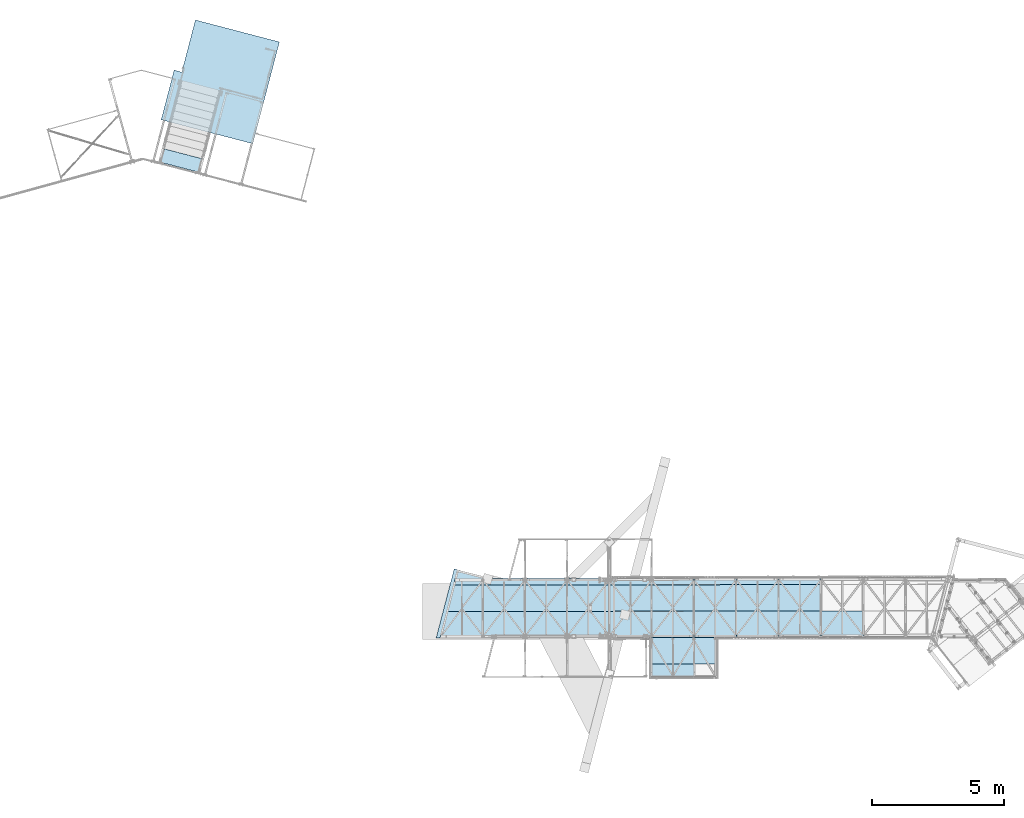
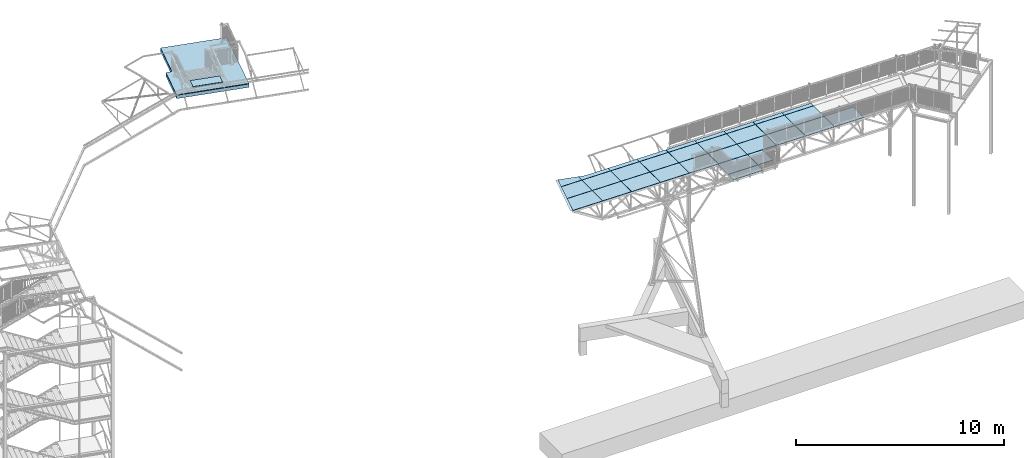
# One storey, part 26 of 169: 33 plates, 2 slabs, 35 elements without a shape of their own.
"""IFC2X3 building model written with IfcOpenShell, lengths in millimetres."""

from ifc_helpers import new_model, si_unit, frame, origin_with_axes, place, context, subcontext, project, spatial, polyline, outline, extrude, material, type_object, element, aggregate, save


model = new_model("IFC2X3")

# Units and contexts
model_context = context("Model", 3, precision=1e-05, world=origin_with_axes())
body_context = subcontext(model_context, "Body", "Model", "MODEL_VIEW")
ifc_project = project(units=[si_unit("LENGTHUNIT", "METRE", prefix="MILLI"), si_unit("AREAUNIT", "SQUARE_METRE"), si_unit("VOLUMEUNIT", "CUBIC_METRE"), si_unit("MASSUNIT", "GRAM", prefix="KILO"), si_unit("TIMEUNIT", "SECOND"), si_unit("PLANEANGLEUNIT", "RADIAN"), si_unit("SOLIDANGLEUNIT", "STERADIAN"), si_unit("THERMODYNAMICTEMPERATUREUNIT", "DEGREE_CELSIUS"), si_unit("LUMINOUSINTENSITYUNIT", "LUMEN")], contexts=[model_context])

# Site, building, storey
site_placement = place(None, origin_with_axes())
site = spatial("IfcSite", under=ifc_project, at=site_placement, Name="Undefined", CompositionType="ELEMENT")
building_placement = place(site_placement, origin_with_axes())
building = spatial("IfcBuilding", under=site, at=building_placement, Name="Undefined", CompositionType="ELEMENT")
storey_placement = place(building_placement, origin_with_axes())
storey = spatial("IfcBuildingStorey", under=building, at=storey_placement, Name="Undefined", CompositionType="ELEMENT", Elevation=0.0)

# Assembly, plate
assembly_1_placement = place(storey_placement, origin_with_axes())
assembly_1 = element("IfcElementAssembly", 1, at=assembly_1_placement, inside=storey, Name="Steel Assembly", AssemblyPlace="NOTDEFINED", PredefinedType="RIGID_FRAME")
ifc_material_1 = material(Name="STEEL/S275JR")
plate_type_1 = type_object("IfcPlateType", Name="BL25*490", PredefinedType="NOTDEFINED")
plate_1_placement = place(assembly_1_placement, frame((7706.02944196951, -1440.61795993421, 13928.8395374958), z_axis=(0.012713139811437, 2.3750999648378e-05, 0.999919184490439), x_axis=(0.9999174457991, 0.00186469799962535, -0.0127131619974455)))
plate_1 = element("IfcPlate", 2, at=plate_1_placement, type_object=plate_type_1, material=ifc_material_1, Name="KRATA", ObjectType="BL25*490", context=body_context, shape_type="SweptSolid", body=[
    extrude(outline(polyline([(0.0, 0.0), (1637.99999999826, 4.73164618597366e-10), (1637.99999999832, 490.0000000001), (-1.66255631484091e-09, 489.999999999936), (0.0, 0.0)])), frame((-2.16840434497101e-17, 4.54747358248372e-13, -12.4999999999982), z_axis=(0.0, 0.0, 1.0), x_axis=(1.0, 0.0, 0.0)), (0.0, 0.0, 1.0), 25.0),
])
aggregate(assembly_1, [plate_1])

assembly_2_placement = place(storey_placement, origin_with_axes())
assembly_2 = element("IfcElementAssembly", 3, at=assembly_2_placement, inside=storey, Name="Steel Assembly", AssemblyPlace="NOTDEFINED", PredefinedType="RIGID_FRAME")
plate_type_2 = type_object("IfcPlateType", Name="BL25*832", PredefinedType="NOTDEFINED")
plate_2_placement = place(assembly_2_placement, frame((9348.47066432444, -942.554189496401, 13907.9454345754), z_axis=(0.012713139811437, 2.3750999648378e-05, 0.999919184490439), x_axis=(0.9999174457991, 0.00186469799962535, -0.0127131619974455)))
plate_2 = element("IfcPlate", 4, at=plate_2_placement, type_object=plate_type_2, material=ifc_material_1, Name="KRATA", ObjectType="BL25*832", context=body_context, shape_type="SweptSolid", body=[
    extrude(outline(polyline([(0.0, 0.0), (831.999999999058, 5.40467226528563e-10), (831.999999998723, 999.999999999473), (4.62969182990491e-08, 1000.00000000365), (0.0, 0.0)])), frame((-2.16840434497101e-17, 4.54747358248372e-13, -12.4999999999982), z_axis=(0.0, 0.0, 1.0), x_axis=(1.0, 0.0, 0.0)), (0.0, 0.0, 1.0), 25.0),
])
aggregate(assembly_2, [plate_2])

assembly_3_placement = place(storey_placement, origin_with_axes())
assembly_3 = element("IfcElementAssembly", 5, at=assembly_3_placement, inside=storey, Name="Steel Assembly", AssemblyPlace="NOTDEFINED", PredefinedType="RIGID_FRAME")
plate_type_3 = type_object("IfcPlateType", Name="BL25*1000", PredefinedType="NOTDEFINED")
plate_3_placement = place(assembly_3_placement, frame((7705.10634155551, -945.618820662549, 13928.83951633), z_axis=(0.012713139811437, 2.3750999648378e-05, 0.999919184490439), x_axis=(0.9999174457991, 0.00186469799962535, -0.0127131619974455)))
plate_3 = element("IfcPlate", 6, at=plate_3_placement, type_object=plate_type_3, material=ifc_material_1, Name="KRATA", ObjectType="BL25*1000", context=body_context, shape_type="SweptSolid", body=[
    extrude(outline(polyline([(0.0, 0.0), (1637.99999999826, 4.73164618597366e-10), (1637.99999999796, 999.9999999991), (4.62969182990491e-08, 1000.00000000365), (0.0, 0.0)])), frame((-2.16840434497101e-17, 4.54747358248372e-13, -12.4999999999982), z_axis=(0.0, 0.0, 1.0), x_axis=(1.0, 0.0, 0.0)), (0.0, 0.0, 1.0), 25.0),
])
aggregate(assembly_3, [plate_3])

assembly_4_placement = place(storey_placement, origin_with_axes())
assembly_4 = element("IfcElementAssembly", 7, at=assembly_4_placement, inside=storey, Name="Steel Assembly", AssemblyPlace="NOTDEFINED", PredefinedType="RIGID_FRAME")
plate_4_placement = place(assembly_4_placement, frame((-338.357094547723, 44.3850878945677, 14031.0819397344), z_axis=(0.012713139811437, 2.3750999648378e-05, 0.999919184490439), x_axis=(0.9999174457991, 0.00186469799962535, -0.0127131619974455)))
plate_4 = element("IfcPlate", 8, at=plate_4_placement, type_object=plate_type_3, material=ifc_material_1, Name="KRATA", ObjectType="BL25*1000", context=body_context, shape_type="SweptSolid", body=[
    extrude(outline(polyline([(0.0, 0.0), (1655.97485351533, -2.68899214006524e-09), (1655.97485351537, 999.999999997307), (257.477142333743, 999.999999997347), (0.0, 0.0)])), frame((-2.16840434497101e-17, 4.54747358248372e-13, -12.4999999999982), z_axis=(0.0, 0.0, 1.0), x_axis=(1.0, 0.0, 0.0)), (0.0, 0.0, 1.0), 25.0),
])
aggregate(assembly_4, [plate_4])

assembly_5_placement = place(storey_placement, origin_with_axes())
assembly_5 = element("IfcElementAssembly", 9, at=assembly_5_placement, inside=storey, Name="Steel Assembly", AssemblyPlace="NOTDEFINED", PredefinedType="RIGID_FRAME")
plate_5_placement = place(assembly_5_placement, frame((-81.446446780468, 1049.86593583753, 14027.7916513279), z_axis=(0.012713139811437, 2.3750999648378e-05, 0.999919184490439), x_axis=(0.9999174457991, 0.00186469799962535, -0.0127131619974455)))
plate_5 = element("IfcPlate", 10, at=plate_5_placement, type_object=plate_type_3, material=ifc_material_1, Name="KRATA", ObjectType="BL25*1000", context=body_context, shape_type="SweptSolid", body=[
    extrude(outline(polyline([(0.0, 0.0), (1397.16857910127, -2.28510543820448e-09), (1397.16857910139, 999.999999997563), (257.434967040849, 999.999999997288), (0.0, 0.0)])), frame((-2.16840434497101e-17, 4.54747358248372e-13, -12.4999999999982), z_axis=(0.0, 0.0, 1.0), x_axis=(1.0, 0.0, 0.0)), (0.0, 0.0, 1.0), 25.0),
])
aggregate(assembly_5, [plate_5])

assembly_6_placement = place(storey_placement, origin_with_axes())
assembly_6 = element("IfcElementAssembly", 11, at=assembly_6_placement, inside=storey, Name="Steel Assembly", AssemblyPlace="NOTDEFINED", PredefinedType="RIGID_FRAME")
plate_6_placement = place(assembly_6_placement, frame((1321.99600791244, 47.4814012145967, 14009.9718590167), z_axis=(0.012713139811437, 2.3750999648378e-05, 0.999919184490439), x_axis=(0.9999174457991, 0.00186469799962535, -0.0127131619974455)))
plate_6 = element("IfcPlate", 12, at=plate_6_placement, type_object=plate_type_3, material=ifc_material_1, Name="KRATA", ObjectType="BL25*1000", context=body_context, shape_type="SweptSolid", body=[
    extrude(outline(polyline([(0.0, 0.0), (1597.00000000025, -3.1636488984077e-09), (1597.0000000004, 999.999999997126), (4.62969182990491e-08, 1000.00000000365), (0.0, 0.0)])), frame((-2.16840434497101e-17, 4.54747358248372e-13, -12.4999999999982), z_axis=(0.0, 0.0, 1.0), x_axis=(1.0, 0.0, 0.0)), (0.0, 0.0, 1.0), 25.0),
])
aggregate(assembly_6, [plate_6])

assembly_7_placement = place(storey_placement, origin_with_axes())
assembly_7 = element("IfcElementAssembly", 13, at=assembly_7_placement, inside=storey, Name="Steel Assembly", AssemblyPlace="NOTDEFINED", PredefinedType="RIGID_FRAME")
plate_7_placement = place(assembly_7_placement, frame((1320.12183404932, 1052.47965368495, 14009.9718155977), z_axis=(0.012713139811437, 2.3750999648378e-05, 0.999919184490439), x_axis=(0.9999174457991, 0.00186469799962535, -0.0127131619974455)))
plate_7 = element("IfcPlate", 14, at=plate_7_placement, type_object=plate_type_3, material=ifc_material_1, Name="KRATA", ObjectType="BL25*1000", context=body_context, shape_type="SweptSolid", body=[
    extrude(outline(polyline([(0.0, 0.0), (1597.00000000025, -3.1636488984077e-09), (1597.0000000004, 999.999999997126), (4.62969182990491e-08, 1000.00000000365), (0.0, 0.0)])), frame((-2.16840434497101e-17, 4.54747358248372e-13, -12.4999999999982), z_axis=(0.0, 0.0, 1.0), x_axis=(1.0, 0.0, 0.0)), (0.0, 0.0, 1.0), 25.0),
])
aggregate(assembly_7, [plate_7])

assembly_8_placement = place(storey_placement, origin_with_axes())
assembly_8 = element("IfcElementAssembly", 15, at=assembly_8_placement, inside=storey, Name="Steel Assembly", AssemblyPlace="NOTDEFINED", PredefinedType="RIGID_FRAME")
plate_8_placement = place(assembly_8_placement, frame((4524.76227237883, 53.4540872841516, 13969.2512109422), z_axis=(0.012713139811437, 2.3750999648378e-05, 0.999919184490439), x_axis=(0.9999174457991, 0.00186469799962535, -0.0127131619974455)))
plate_8 = element("IfcPlate", 16, at=plate_8_placement, type_object=plate_type_3, material=ifc_material_1, Name="KRATA", ObjectType="BL25*1000", context=body_context, shape_type="SweptSolid", body=[
    extrude(outline(polyline([(0.0, 0.0), (1597.00000000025, -3.1636488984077e-09), (1597.0000000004, 999.999999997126), (4.62969182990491e-08, 1000.00000000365), (0.0, 0.0)])), frame((-2.16840434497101e-17, 4.54747358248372e-13, -12.4999999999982), z_axis=(0.0, 0.0, 1.0), x_axis=(1.0, 0.0, 0.0)), (0.0, 0.0, 1.0), 25.0),
])
aggregate(assembly_8, [plate_8])

assembly_9_placement = place(storey_placement, origin_with_axes())
assembly_9 = element("IfcElementAssembly", 17, at=assembly_9_placement, inside=storey, Name="Steel Assembly", AssemblyPlace="NOTDEFINED", PredefinedType="RIGID_FRAME")
plate_9_placement = place(assembly_9_placement, frame((4522.88809851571, 1058.45233975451, 13969.2511675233), z_axis=(0.012713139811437, 2.3750999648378e-05, 0.999919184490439), x_axis=(0.9999174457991, 0.00186469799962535, -0.0127131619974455)))
plate_9 = element("IfcPlate", 18, at=plate_9_placement, type_object=plate_type_3, material=ifc_material_1, Name="KRATA", ObjectType="BL25*1000", context=body_context, shape_type="SweptSolid", body=[
    extrude(outline(polyline([(0.0, 0.0), (1597.00000000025, -3.1636488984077e-09), (1597.0000000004, 999.999999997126), (4.62969182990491e-08, 1000.00000000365), (0.0, 0.0)])), frame((-2.16840434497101e-17, 4.54747358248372e-13, -12.4999999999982), z_axis=(0.0, 0.0, 1.0), x_axis=(1.0, 0.0, 0.0)), (0.0, 0.0, 1.0), 25.0),
])
aggregate(assembly_9, [plate_9])

assembly_10_placement = place(storey_placement, origin_with_axes())
assembly_10 = element("IfcElementAssembly", 19, at=assembly_10_placement, inside=storey, Name="Steel Assembly", AssemblyPlace="NOTDEFINED", PredefinedType="RIGID_FRAME")
plate_10_placement = place(assembly_10_placement, frame((2923.379140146, 50.4677442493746, 13989.6115349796), z_axis=(0.012713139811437, 2.3750999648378e-05, 0.999919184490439), x_axis=(0.9999174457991, 0.00186469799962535, -0.0127131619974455)))
plate_10 = element("IfcPlate", 20, at=plate_10_placement, type_object=plate_type_3, material=ifc_material_1, Name="KRATA", ObjectType="BL25*1000", context=body_context, shape_type="SweptSolid", body=[
    extrude(outline(polyline([(0.0, 0.0), (1597.00000000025, -3.1636488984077e-09), (1597.0000000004, 999.999999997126), (4.62969182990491e-08, 1000.00000000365), (0.0, 0.0)])), frame((-2.16840434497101e-17, 4.54747358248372e-13, -12.4999999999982), z_axis=(0.0, 0.0, 1.0), x_axis=(1.0, 0.0, 0.0)), (0.0, 0.0, 1.0), 25.0),
])
aggregate(assembly_10, [plate_10])

assembly_11_placement = place(storey_placement, origin_with_axes())
assembly_11 = element("IfcElementAssembly", 21, at=assembly_11_placement, inside=storey, Name="Steel Assembly", AssemblyPlace="NOTDEFINED", PredefinedType="RIGID_FRAME")
plate_11_placement = place(assembly_11_placement, frame((2921.50496628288, 1055.46599671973, 13989.6114915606), z_axis=(0.012713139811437, 2.3750999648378e-05, 0.999919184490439), x_axis=(0.9999174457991, 0.00186469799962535, -0.0127131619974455)))
plate_11 = element("IfcPlate", 22, at=plate_11_placement, type_object=plate_type_3, material=ifc_material_1, Name="KRATA", ObjectType="BL25*1000", context=body_context, shape_type="SweptSolid", body=[
    extrude(outline(polyline([(0.0, 0.0), (1597.00000000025, -3.1636488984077e-09), (1597.0000000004, 999.999999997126), (4.62969182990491e-08, 1000.00000000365), (0.0, 0.0)])), frame((-2.16840434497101e-17, 4.54747358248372e-13, -12.4999999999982), z_axis=(0.0, 0.0, 1.0), x_axis=(1.0, 0.0, 0.0)), (0.0, 0.0, 1.0), 25.0),
])
aggregate(assembly_11, [plate_11])

assembly_12_placement = place(storey_placement, origin_with_axes())
assembly_12 = element("IfcElementAssembly", 23, at=assembly_12_placement, inside=storey, Name="Steel Assembly", AssemblyPlace="NOTDEFINED", PredefinedType="RIGID_FRAME")
plate_12_placement = place(assembly_12_placement, frame((6124.4881415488, 1061.43705491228, 13948.8880866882), z_axis=(0.012713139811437, 2.3750999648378e-05, 0.999919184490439), x_axis=(0.9999174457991, 0.00186469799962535, -0.0127131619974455)))
plate_12 = element("IfcPlate", 24, at=plate_12_placement, type_object=plate_type_3, material=ifc_material_1, Name="KRATA", ObjectType="BL25*1000", context=body_context, shape_type="SweptSolid", body=[
    extrude(outline(polyline([(0.0, 0.0), (1604.99999999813, -1.71257852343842e-09), (1604.99999999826, 999.99999999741), (4.62969182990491e-08, 1000.00000000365), (0.0, 0.0)])), frame((-2.16840434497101e-17, 4.54747358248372e-13, -12.4999999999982), z_axis=(0.0, 0.0, 1.0), x_axis=(1.0, 0.0, 0.0)), (0.0, 0.0, 1.0), 25.0),
])
aggregate(assembly_12, [plate_12])

assembly_13_placement = place(storey_placement, origin_with_axes())
assembly_13 = element("IfcElementAssembly", 25, at=assembly_13_placement, inside=storey, Name="Steel Assembly", AssemblyPlace="NOTDEFINED", PredefinedType="RIGID_FRAME")
plate_13_placement = place(assembly_13_placement, frame((6126.36231541, 56.438802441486, 13948.8881301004), z_axis=(0.012713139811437, 2.3750999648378e-05, 0.999919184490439), x_axis=(0.9999174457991, 0.00186469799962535, -0.0127131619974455)))
plate_13 = element("IfcPlate", 26, at=plate_13_placement, type_object=plate_type_3, material=ifc_material_1, Name="KRATA", ObjectType="BL25*1000", context=body_context, shape_type="SweptSolid", body=[
    extrude(outline(polyline([(0.0, 0.0), (1604.99999999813, -1.71257852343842e-09), (1604.99999999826, 999.99999999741), (4.62969182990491e-08, 1000.00000000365), (0.0, 0.0)])), frame((-2.16840434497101e-17, 4.54747358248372e-13, -12.4999999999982), z_axis=(0.0, 0.0, 1.0), x_axis=(1.0, 0.0, 0.0)), (0.0, 0.0, 1.0), 25.0),
])
aggregate(assembly_13, [plate_13])

assembly_14_placement = place(storey_placement, origin_with_axes())
assembly_14 = element("IfcElementAssembly", 27, at=assembly_14_placement, inside=storey, Name="Steel Assembly", AssemblyPlace="NOTDEFINED", PredefinedType="RIGID_FRAME")
plate_14_placement = place(assembly_14_placement, frame((7734.35526993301, 1064.43921935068, 13928.4198956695), z_axis=(0.012713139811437, 2.3750999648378e-05, 0.999919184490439), x_axis=(0.9999174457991, 0.00186469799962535, -0.0127131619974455)))
plate_14 = element("IfcPlate", 28, at=plate_14_placement, type_object=plate_type_3, material=ifc_material_1, Name="KRATA", ObjectType="BL25*1000", context=body_context, shape_type="SweptSolid", body=[
    extrude(outline(polyline([(0.0, 0.0), (1604.99999999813, -1.71257852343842e-09), (1604.99999999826, 999.99999999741), (4.62969182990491e-08, 1000.00000000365), (0.0, 0.0)])), frame((-2.16840434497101e-17, 4.54747358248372e-13, -12.4999999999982), z_axis=(0.0, 0.0, 1.0), x_axis=(1.0, 0.0, 0.0)), (0.0, 0.0, 1.0), 25.0),
])
aggregate(assembly_14, [plate_14])

assembly_15_placement = place(storey_placement, origin_with_axes())
assembly_15 = element("IfcElementAssembly", 29, at=assembly_15_placement, inside=storey, Name="Steel Assembly", AssemblyPlace="NOTDEFINED", PredefinedType="RIGID_FRAME")
plate_15_placement = place(assembly_15_placement, frame((7736.22944379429, 59.4409668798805, 13928.4199390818), z_axis=(0.012713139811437, 2.3750999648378e-05, 0.999919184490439), x_axis=(0.9999174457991, 0.00186469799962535, -0.0127131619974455)))
plate_15 = element("IfcPlate", 30, at=plate_15_placement, type_object=plate_type_3, material=ifc_material_1, Name="KRATA", ObjectType="BL25*1000", context=body_context, shape_type="SweptSolid", body=[
    extrude(outline(polyline([(0.0, 0.0), (1604.99999999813, -1.71257852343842e-09), (1604.99999999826, 999.99999999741), (4.62969182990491e-08, 1000.00000000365), (0.0, 0.0)])), frame((-2.16840434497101e-17, 4.54747358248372e-13, -12.4999999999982), z_axis=(0.0, 0.0, 1.0), x_axis=(1.0, 0.0, 0.0)), (0.0, 0.0, 1.0), 25.0),
])
aggregate(assembly_15, [plate_15])

assembly_16_placement = place(storey_placement, origin_with_axes())
assembly_16 = element("IfcElementAssembly", 31, at=assembly_16_placement, inside=storey, Name="Steel Assembly", AssemblyPlace="NOTDEFINED", PredefinedType="RIGID_FRAME")
plate_16_placement = place(assembly_16_placement, frame((9344.22239831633, 1067.44138378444, 13907.9517046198), z_axis=(0.012713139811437, 2.3750999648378e-05, 0.999919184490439), x_axis=(0.9999174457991, 0.00186469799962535, -0.0127131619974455)))
plate_16 = element("IfcPlate", 32, at=plate_16_placement, type_object=plate_type_3, material=ifc_material_1, Name="KRATA", ObjectType="BL25*1000", context=body_context, shape_type="SweptSolid", body=[
    extrude(outline(polyline([(0.0, 0.0), (1604.99999999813, -1.71257852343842e-09), (1604.99999999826, 999.99999999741), (4.62969182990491e-08, 1000.00000000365), (0.0, 0.0)])), frame((-2.16840434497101e-17, 4.54747358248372e-13, -12.4999999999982), z_axis=(0.0, 0.0, 1.0), x_axis=(1.0, 0.0, 0.0)), (0.0, 0.0, 1.0), 25.0),
])
aggregate(assembly_16, [plate_16])

assembly_17_placement = place(storey_placement, origin_with_axes())
assembly_17 = element("IfcElementAssembly", 33, at=assembly_17_placement, inside=storey, Name="Steel Assembly", AssemblyPlace="NOTDEFINED", PredefinedType="RIGID_FRAME")
plate_17_placement = place(assembly_17_placement, frame((9346.0965721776, 62.443131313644, 13907.951748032), z_axis=(0.012713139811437, 2.3750999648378e-05, 0.999919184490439), x_axis=(0.9999174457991, 0.00186469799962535, -0.0127131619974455)))
plate_17 = element("IfcPlate", 34, at=plate_17_placement, type_object=plate_type_3, material=ifc_material_1, Name="KRATA", ObjectType="BL25*1000", context=body_context, shape_type="SweptSolid", body=[
    extrude(outline(polyline([(0.0, 0.0), (1604.99999999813, -1.71257852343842e-09), (1604.99999999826, 999.99999999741), (4.62969182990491e-08, 1000.00000000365), (0.0, 0.0)])), frame((-2.16840434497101e-17, 4.54747358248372e-13, -12.4999999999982), z_axis=(0.0, 0.0, 1.0), x_axis=(1.0, 0.0, 0.0)), (0.0, 0.0, 1.0), 25.0),
])
aggregate(assembly_17, [plate_17])

assembly_18_placement = place(storey_placement, origin_with_axes())
assembly_18 = element("IfcElementAssembly", 35, at=assembly_18_placement, inside=storey, Name="Steel Assembly", AssemblyPlace="NOTDEFINED", PredefinedType="RIGID_FRAME")
plate_18_placement = place(assembly_18_placement, frame((10954.089526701, 1070.4435482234, 13887.4835136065), z_axis=(0.012713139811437, 2.3750999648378e-05, 0.999919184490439), x_axis=(0.9999174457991, 0.00186469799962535, -0.0127131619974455)))
plate_18 = element("IfcPlate", 36, at=plate_18_placement, type_object=plate_type_3, material=ifc_material_1, Name="KRATA", ObjectType="BL25*1000", context=body_context, shape_type="SweptSolid", body=[
    extrude(outline(polyline([(0.0, 0.0), (1604.99999999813, -1.71257852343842e-09), (1604.99999999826, 999.99999999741), (4.62969182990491e-08, 1000.00000000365), (0.0, 0.0)])), frame((-2.16840434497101e-17, 4.54747358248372e-13, -12.4999999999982), z_axis=(0.0, 0.0, 1.0), x_axis=(1.0, 0.0, 0.0)), (0.0, 0.0, 1.0), 25.0),
])
aggregate(assembly_18, [plate_18])

assembly_19_placement = place(storey_placement, origin_with_axes())
assembly_19 = element("IfcElementAssembly", 37, at=assembly_19_placement, inside=storey, Name="Steel Assembly", AssemblyPlace="NOTDEFINED", PredefinedType="RIGID_FRAME")
plate_19_placement = place(assembly_19_placement, frame((10955.9637005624, 65.4452957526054, 13887.4835570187), z_axis=(0.012713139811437, 2.3750999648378e-05, 0.999919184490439), x_axis=(0.9999174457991, 0.00186469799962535, -0.0127131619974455)))
plate_19 = element("IfcPlate", 38, at=plate_19_placement, type_object=plate_type_3, material=ifc_material_1, Name="KRATA", ObjectType="BL25*1000", context=body_context, shape_type="SweptSolid", body=[
    extrude(outline(polyline([(0.0, 0.0), (1604.99999999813, -1.71257852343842e-09), (1604.99999999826, 999.99999999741), (4.62969182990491e-08, 1000.00000000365), (0.0, 0.0)])), frame((-2.16840434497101e-17, 4.54747358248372e-13, -12.4999999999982), z_axis=(0.0, 0.0, 1.0), x_axis=(1.0, 0.0, 0.0)), (0.0, 0.0, 1.0), 25.0),
])
aggregate(assembly_19, [plate_19])

assembly_20_placement = place(storey_placement, origin_with_axes())
assembly_20 = element("IfcElementAssembly", 39, at=assembly_20_placement, inside=storey, Name="Steel Assembly", AssemblyPlace="NOTDEFINED", PredefinedType="RIGID_FRAME")
plate_20_placement = place(assembly_20_placement, frame((12563.9566550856, 1073.44571266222, 13867.0153225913), z_axis=(0.012713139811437, 2.3750999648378e-05, 0.999919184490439), x_axis=(0.9999174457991, 0.00186469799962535, -0.0127131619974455)))
plate_20 = element("IfcPlate", 40, at=plate_20_placement, type_object=plate_type_3, material=ifc_material_1, Name="KRATA", ObjectType="BL25*1000", context=body_context, shape_type="SweptSolid", body=[
    extrude(outline(polyline([(0.0, 0.0), (1604.99999999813, -1.71257852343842e-09), (1604.99999999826, 999.99999999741), (4.62969182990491e-08, 1000.00000000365), (0.0, 0.0)])), frame((-2.16840434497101e-17, 4.54747358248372e-13, -12.4999999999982), z_axis=(0.0, 0.0, 1.0), x_axis=(1.0, 0.0, 0.0)), (0.0, 0.0, 1.0), 25.0),
])
aggregate(assembly_20, [plate_20])

assembly_21_placement = place(storey_placement, origin_with_axes())
assembly_21 = element("IfcElementAssembly", 41, at=assembly_21_placement, inside=storey, Name="Steel Assembly", AssemblyPlace="NOTDEFINED", PredefinedType="RIGID_FRAME")
plate_21_placement = place(assembly_21_placement, frame((12565.8308289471, 68.447460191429, 13867.0153660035), z_axis=(0.012713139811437, 2.3750999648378e-05, 0.999919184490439), x_axis=(0.9999174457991, 0.00186469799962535, -0.0127131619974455)))
plate_21 = element("IfcPlate", 42, at=plate_21_placement, type_object=plate_type_3, material=ifc_material_1, Name="KRATA", ObjectType="BL25*1000", context=body_context, shape_type="SweptSolid", body=[
    extrude(outline(polyline([(0.0, 0.0), (1604.99999999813, -1.71257852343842e-09), (1604.99999999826, 999.99999999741), (4.62969182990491e-08, 1000.00000000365), (0.0, 0.0)])), frame((-2.16840434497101e-17, 4.54747358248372e-13, -12.4999999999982), z_axis=(0.0, 0.0, 1.0), x_axis=(1.0, 0.0, 0.0)), (0.0, 0.0, 1.0), 25.0),
])
aggregate(assembly_21, [plate_21])

assembly_22_placement = place(storey_placement, origin_with_axes())
assembly_22 = element("IfcElementAssembly", 43, at=assembly_22_placement, inside=storey, Name="Steel Assembly", AssemblyPlace="NOTDEFINED", PredefinedType="RIGID_FRAME")
plate_22_placement = place(assembly_22_placement, frame((14175.6979573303, 71.4496246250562, 13846.5471749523), z_axis=(0.012713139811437, 2.3750999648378e-05, 0.999919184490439), x_axis=(0.9999174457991, 0.00186469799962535, -0.0127131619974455)))
plate_22 = element("IfcPlate", 44, at=plate_22_placement, type_object=plate_type_3, material=ifc_material_1, Name="KRATA", ObjectType="BL25*1000", context=body_context, shape_type="SweptSolid", body=[
    extrude(outline(polyline([(0.0, 0.0), (1604.99999999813, -1.71257852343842e-09), (1604.99999999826, 999.99999999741), (4.62969182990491e-08, 1000.00000000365), (0.0, 0.0)])), frame((-2.16840434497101e-17, 4.54747358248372e-13, -12.4999999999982), z_axis=(0.0, 0.0, 1.0), x_axis=(1.0, 0.0, 0.0)), (0.0, 0.0, 1.0), 25.0),
])
aggregate(assembly_22, [plate_22])

assembly_23_placement = place(storey_placement, origin_with_axes())
assembly_23 = element("IfcElementAssembly", 45, at=assembly_23_placement, inside=storey, Name="Steel Assembly", AssemblyPlace="NOTDEFINED", PredefinedType="RIGID_FRAME")
plate_type_4 = type_object("IfcPlateType", Name="BL3*142", PredefinedType="NOTDEFINED")
plate_23_placement = place(assembly_23_placement, frame((-464.535456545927, 44.1497845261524, 14046.6873296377), z_axis=(0.012713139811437, 2.3750999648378e-05, 0.999919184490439), x_axis=(0.9999174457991, 0.00186469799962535, -0.0127131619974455)))
plate_23 = element("IfcPlate", 46, at=plate_23_placement, type_object=plate_type_4, material=ifc_material_1, Name="MASKOWNICA", ObjectType="BL3*142", context=body_context, shape_type="SweptSolid", body=[
    extrude(outline(polyline([(0.0, 0.0), (146.85600280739, 5.36836353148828e-10), (814.30780029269, 2592.29052734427), (690.519592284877, 2624.85546875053), (0.0, 0.0)])), frame((1.81898940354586e-12, -1.77635442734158e-15, -1.50000000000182), z_axis=(0.0, 0.0, 1.0), x_axis=(1.0, 0.0, 0.0)), (0.0, 0.0, 1.0), 3.0),
])
aggregate(assembly_23, [plate_23])

# Assembly, slab
assembly_24_placement = place(storey_placement, origin_with_axes())
assembly_24 = element("IfcElementAssembly", 47, at=assembly_24_placement, inside=storey, Name="CONCRETE_SLAB", AssemblyPlace="NOTDEFINED", PredefinedType="REINFORCEMENT_UNIT")
ifc_material_2 = material(Name="CONCRETE/C45/55")
slab_type_1 = type_object("IfcSlabType", Name="20*3600", PredefinedType="NOTDEFINED")
slab_1_placement = place(assembly_24_placement, frame((-7435.77236411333, 18837.9479175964, 12555.4183765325), z_axis=(0.0, 0.0, 1.0), x_axis=(0.252628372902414, 0.967563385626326, 0.0)))
slab_1 = element("IfcSlab", 48, at=slab_1_placement, type_object=slab_type_1, material=ifc_material_2, Name="CONCRETE_SLAB", ObjectType="20*3600", PredefinedType="FLOOR", context=body_context, shape_type="SweptSolid", body=[
    extrude(outline(polyline([(0.0, 0.0), (4000.00390628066, -6.42103259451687e-10), (4000.0039062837, 3300.00000000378), (1949.99438478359, 3300.00000000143), (1949.99438478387, 3600.00000000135), (1.49970219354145e-07, 3599.99999999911), (0.0, 0.0)])), frame((-4.54746113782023e-13, 1.81900675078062e-12, -9.99999999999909), z_axis=(0.0, 0.0, 1.0), x_axis=(1.0, 0.0, 0.0)), (0.0, 0.0, 1.0), 20.0),
])
aggregate(assembly_24, [slab_1])

# Assembly, plate
assembly_25_placement = place(storey_placement, origin_with_axes())
assembly_25 = element("IfcElementAssembly", 49, at=assembly_25_placement, inside=storey, Name="Steel Assembly", AssemblyPlace="NOTDEFINED", PredefinedType="RIGID_FRAME")
ifc_material_3 = material(Name="STEEL/S235")
plate_type_5 = type_object("IfcPlateType", Name="BL40*530", PredefinedType="NOTDEFINED")
plate_24_placement = place(assembly_25_placement, frame((-9377.03594678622, 18270.7291114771, 14020.4176077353), z_axis=(0.0, 0.0, 1.0), x_axis=(-0.967563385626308, 0.252628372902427, -1.72000000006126e-07)))
plate_24 = element("IfcPlate", 50, at=plate_24_placement, type_object=plate_type_5, material=ifc_material_3, Name="KRATA", ObjectType="BL40*530", context=body_context, shape_type="SweptSolid", body=[
    extrude(outline(polyline([(0.0, 0.0), (1479.99999999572, -1.77897163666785e-09), (1479.99999999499, 530.00000000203), (-7.15426722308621e-08, 530.000000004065), (0.0, 0.0)])), frame((0.0, 0.0, -20.0), z_axis=(0.0, 0.0, 1.0), x_axis=(1.0, 0.0, 0.0)), (0.0, 0.0, 1.0), 40.0),
])
aggregate(assembly_25, [plate_24])

# Assembly, slab
assembly_26_placement = place(storey_placement, origin_with_axes())
assembly_26 = element("IfcElementAssembly", 51, at=assembly_26_placement, inside=storey, Name="CONCRETE_SLAB", AssemblyPlace="NOTDEFINED", PredefinedType="REINFORCEMENT_UNIT")
ifc_material_4 = material(Name="CONCRETE/C25/30")
slab_type_2 = type_object("IfcSlabType", Name="200*3600", PredefinedType="NOTDEFINED")
slab_2_placement = place(assembly_26_placement, frame((-6425.25788578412, 22708.2052398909, 12445.4183763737), z_axis=(0.0, 0.0, 1.0), x_axis=(-0.967563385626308, 0.252628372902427, -1.72000000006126e-07)))
slab_2 = element("IfcSlab", 52, at=slab_2_placement, type_object=slab_type_2, material=ifc_material_4, Name="CONCRETE_SLAB", ObjectType="200*3600", PredefinedType="FLOOR", context=body_context, shape_type="SweptSolid", body=[
    extrude(outline(polyline([(0.0, 0.0), (3299.999999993, -4.12910594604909e-09), (3299.99999999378, 2050.00952149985), (3599.99999999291, 2050.00952149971), (3599.99999999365, 4000.00390628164), (3.54702933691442e-10, 4000.00390628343), (0.0, 0.0)])), frame((0.0, 0.0, -99.9999999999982), z_axis=(0.0, 0.0, 1.0), x_axis=(1.0, 0.0, 0.0)), (0.0, 0.0, 1.0), 200.0),
])
aggregate(assembly_26, [slab_2])

# Assembly, plate
assembly_27_placement = place(storey_placement, origin_with_axes())
assembly_27 = element("IfcElementAssembly", 53, at=assembly_27_placement, inside=storey, Name="Steel Assembly", AssemblyPlace="NOTDEFINED", PredefinedType="RIGID_FRAME")
plate_type_6 = type_object("IfcPlateType", Name="BL25*587", PredefinedType="NOTDEFINED")
plate_25_placement = place(assembly_27_placement, frame((175.380381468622, 2055.3466274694, 14024.5024286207), z_axis=(0.012713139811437, 2.3750999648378e-05, 0.999919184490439), x_axis=(0.9999174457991, 0.00186469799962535, -0.0127131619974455)))
plate_25 = element("IfcPlate", 54, at=plate_25_placement, type_object=plate_type_6, material=ifc_material_1, Name="KRATA", ObjectType="BL25*587", context=body_context, shape_type="SweptSolid", body=[
    extrude(outline(polyline([(0.0, 0.0), (1138.10461425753, -2.36059349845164e-09), (1138.10461425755, 333.250579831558), (151.225799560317, 587.337951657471), (0.0, 0.0)])), frame((-2.16840434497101e-17, 4.54747358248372e-13, -12.4999999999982), z_axis=(0.0, 0.0, 1.0), x_axis=(1.0, 0.0, 0.0)), (0.0, 0.0, 1.0), 25.0),
])
aggregate(assembly_27, [plate_25])

assembly_28_placement = place(storey_placement, origin_with_axes())
assembly_28 = element("IfcElementAssembly", 55, at=assembly_28_placement, inside=storey, Name="Steel Assembly", AssemblyPlace="NOTDEFINED", PredefinedType="RIGID_FRAME")
plate_type_7 = type_object("IfcPlateType", Name="BL25*332", PredefinedType="NOTDEFINED")
plate_26_placement = place(assembly_28_placement, frame((1318.24766018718, 2057.47790615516, 14009.971772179), z_axis=(0.012713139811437, 2.3750999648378e-05, 0.999919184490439), x_axis=(0.9999174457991, 0.00186469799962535, -0.0127131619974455)))
plate_26 = element("IfcPlate", 56, at=plate_26_placement, type_object=plate_type_7, material=ifc_material_1, Name="KRATA", ObjectType="BL25*332", context=body_context, shape_type="SweptSolid", body=[
    extrude(outline(polyline([(0.0, 0.0), (1597.00000000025, -3.1636488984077e-09), (1597.00000000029, 249.999999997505), (318.019287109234, 249.999999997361), (-7.22138793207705e-10, 331.858734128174), (0.0, 0.0)])), frame((-2.16840434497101e-17, 4.54747358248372e-13, -12.4999999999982), z_axis=(0.0, 0.0, 1.0), x_axis=(1.0, 0.0, 0.0)), (0.0, 0.0, 1.0), 25.0),
])
aggregate(assembly_28, [plate_26])

assembly_29_placement = place(storey_placement, origin_with_axes())
assembly_29 = element("IfcElementAssembly", 57, at=assembly_29_placement, inside=storey, Name="Steel Assembly", AssemblyPlace="NOTDEFINED", PredefinedType="RIGID_FRAME")
plate_type_8 = type_object("IfcPlateType", Name="BL25*250", PredefinedType="NOTDEFINED")
plate_27_placement = place(assembly_29_placement, frame((4521.01392465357, 2063.45059222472, 13969.2511241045), z_axis=(0.012713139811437, 2.3750999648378e-05, 0.999919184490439), x_axis=(0.9999174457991, 0.00186469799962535, -0.0127131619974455)))
plate_27 = element("IfcPlate", 58, at=plate_27_placement, type_object=plate_type_8, material=ifc_material_1, Name="KRATA", ObjectType="BL25*250", context=body_context, shape_type="SweptSolid", body=[
    extrude(outline(polyline([(0.0, 0.0), (1597.00000000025, -3.1636488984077e-09), (1597.00000000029, 249.999999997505), (4.90217644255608e-10, 249.999999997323), (0.0, 0.0)])), frame((-2.16840434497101e-17, 4.54747358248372e-13, -12.4999999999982), z_axis=(0.0, 0.0, 1.0), x_axis=(1.0, 0.0, 0.0)), (0.0, 0.0, 1.0), 25.0),
])
aggregate(assembly_29, [plate_27])

assembly_30_placement = place(storey_placement, origin_with_axes())
assembly_30 = element("IfcElementAssembly", 59, at=assembly_30_placement, inside=storey, Name="Steel Assembly", AssemblyPlace="NOTDEFINED", PredefinedType="RIGID_FRAME")
plate_28_placement = place(assembly_30_placement, frame((6122.61878906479, 2066.43531637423, 13948.8879819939), z_axis=(0.012713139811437, 2.3750999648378e-05, 0.999919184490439), x_axis=(0.9999174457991, 0.00186469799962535, -0.0127131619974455)))
plate_28 = element("IfcPlate", 60, at=plate_28_placement, type_object=plate_type_8, material=ifc_material_1, Name="KRATA", ObjectType="BL25*250", context=body_context, shape_type="SweptSolid", body=[
    extrude(outline(polyline([(0.0, 0.0), (1604.99999999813, -1.71257852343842e-09), (1604.99999999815, 249.999999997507), (4.90217644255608e-10, 249.999999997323), (0.0, 0.0)])), frame((-2.16840434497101e-17, 4.54747358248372e-13, -12.4999999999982), z_axis=(0.0, 0.0, 1.0), x_axis=(1.0, 0.0, 0.0)), (0.0, 0.0, 1.0), 25.0),
])
aggregate(assembly_30, [plate_28])

assembly_31_placement = place(storey_placement, origin_with_axes())
assembly_31 = element("IfcElementAssembly", 61, at=assembly_31_placement, inside=storey, Name="Steel Assembly", AssemblyPlace="NOTDEFINED", PredefinedType="RIGID_FRAME")
plate_29_placement = place(assembly_31_placement, frame((7732.48591744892, 2069.43748081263, 13928.4197909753), z_axis=(0.012713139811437, 2.3750999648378e-05, 0.999919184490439), x_axis=(0.9999174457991, 0.00186469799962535, -0.0127131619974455)))
plate_29 = element("IfcPlate", 62, at=plate_29_placement, type_object=plate_type_8, material=ifc_material_1, Name="KRATA", ObjectType="BL25*250", context=body_context, shape_type="SweptSolid", body=[
    extrude(outline(polyline([(0.0, 0.0), (1604.99999999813, -1.71257852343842e-09), (1604.99999999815, 249.999999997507), (4.90217644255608e-10, 249.999999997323), (0.0, 0.0)])), frame((-2.16840434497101e-17, 4.54747358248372e-13, -12.4999999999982), z_axis=(0.0, 0.0, 1.0), x_axis=(1.0, 0.0, 0.0)), (0.0, 0.0, 1.0), 25.0),
])
aggregate(assembly_31, [plate_29])

assembly_32_placement = place(storey_placement, origin_with_axes())
assembly_32 = element("IfcElementAssembly", 63, at=assembly_32_placement, inside=storey, Name="Steel Assembly", AssemblyPlace="NOTDEFINED", PredefinedType="RIGID_FRAME")
plate_30_placement = place(assembly_32_placement, frame((9342.35304583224, 2072.43964524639, 13907.9515999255), z_axis=(0.012713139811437, 2.3750999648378e-05, 0.999919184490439), x_axis=(0.9999174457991, 0.00186469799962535, -0.0127131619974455)))
plate_30 = element("IfcPlate", 64, at=plate_30_placement, type_object=plate_type_8, material=ifc_material_1, Name="KRATA", ObjectType="BL25*250", context=body_context, shape_type="SweptSolid", body=[
    extrude(outline(polyline([(0.0, 0.0), (1604.99999999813, -1.71257852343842e-09), (1604.99999999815, 249.999999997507), (4.90217644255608e-10, 249.999999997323), (0.0, 0.0)])), frame((-2.16840434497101e-17, 4.54747358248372e-13, -12.4999999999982), z_axis=(0.0, 0.0, 1.0), x_axis=(1.0, 0.0, 0.0)), (0.0, 0.0, 1.0), 25.0),
])
aggregate(assembly_32, [plate_30])

assembly_33_placement = place(storey_placement, origin_with_axes())
assembly_33 = element("IfcElementAssembly", 65, at=assembly_33_placement, inside=storey, Name="Steel Assembly", AssemblyPlace="NOTDEFINED", PredefinedType="RIGID_FRAME")
plate_31_placement = place(assembly_33_placement, frame((10952.2201742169, 2075.44180968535, 13887.4834089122), z_axis=(0.012713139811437, 2.3750999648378e-05, 0.999919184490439), x_axis=(0.9999174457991, 0.00186469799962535, -0.0127131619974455)))
plate_31 = element("IfcPlate", 66, at=plate_31_placement, type_object=plate_type_8, material=ifc_material_1, Name="KRATA", ObjectType="BL25*250", context=body_context, shape_type="SweptSolid", body=[
    extrude(outline(polyline([(0.0, 0.0), (1604.99999999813, -1.71257852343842e-09), (1604.99999999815, 249.999999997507), (4.90217644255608e-10, 249.999999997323), (0.0, 0.0)])), frame((-2.16840434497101e-17, 4.54747358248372e-13, -12.4999999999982), z_axis=(0.0, 0.0, 1.0), x_axis=(1.0, 0.0, 0.0)), (0.0, 0.0, 1.0), 25.0),
])
aggregate(assembly_33, [plate_31])

assembly_34_placement = place(storey_placement, origin_with_axes())
assembly_34 = element("IfcElementAssembly", 67, at=assembly_34_placement, inside=storey, Name="Steel Assembly", AssemblyPlace="NOTDEFINED", PredefinedType="RIGID_FRAME")
plate_32_placement = place(assembly_34_placement, frame((12562.0873026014, 2078.44397412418, 13867.015217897), z_axis=(0.012713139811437, 2.3750999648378e-05, 0.999919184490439), x_axis=(0.9999174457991, 0.00186469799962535, -0.0127131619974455)))
plate_32 = element("IfcPlate", 68, at=plate_32_placement, type_object=plate_type_8, material=ifc_material_1, Name="KRATA", ObjectType="BL25*250", context=body_context, shape_type="SweptSolid", body=[
    extrude(outline(polyline([(0.0, 0.0), (1604.99999999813, -1.71257852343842e-09), (1604.99999999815, 249.999999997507), (4.90217644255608e-10, 249.999999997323), (0.0, 0.0)])), frame((-2.16840434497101e-17, 4.54747358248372e-13, -12.4999999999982), z_axis=(0.0, 0.0, 1.0), x_axis=(1.0, 0.0, 0.0)), (0.0, 0.0, 1.0), 25.0),
])
aggregate(assembly_34, [plate_32])

assembly_35_placement = place(storey_placement, origin_with_axes())
assembly_35 = element("IfcElementAssembly", 69, at=assembly_35_placement, inside=storey, Name="Steel Assembly", AssemblyPlace="NOTDEFINED", PredefinedType="RIGID_FRAME")
plate_33_placement = place(assembly_35_placement, frame((2919.63079242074, 2060.46424918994, 13989.6114481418), z_axis=(0.012713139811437, 2.3750999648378e-05, 0.999919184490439), x_axis=(0.9999174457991, 0.00186469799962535, -0.0127131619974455)))
plate_33 = element("IfcPlate", 70, at=plate_33_placement, type_object=plate_type_8, material=ifc_material_1, Name="KRATA", ObjectType="BL25*250", context=body_context, shape_type="SweptSolid", body=[
    extrude(outline(polyline([(0.0, 0.0), (1597.00000000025, -3.1636488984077e-09), (1597.00000000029, 249.999999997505), (4.90217644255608e-10, 249.999999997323), (0.0, 0.0)])), frame((-2.16840434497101e-17, 4.54747358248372e-13, -12.4999999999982), z_axis=(0.0, 0.0, 1.0), x_axis=(1.0, 0.0, 0.0)), (0.0, 0.0, 1.0), 25.0),
])
aggregate(assembly_35, [plate_33])

save(model, "model.ifc")
